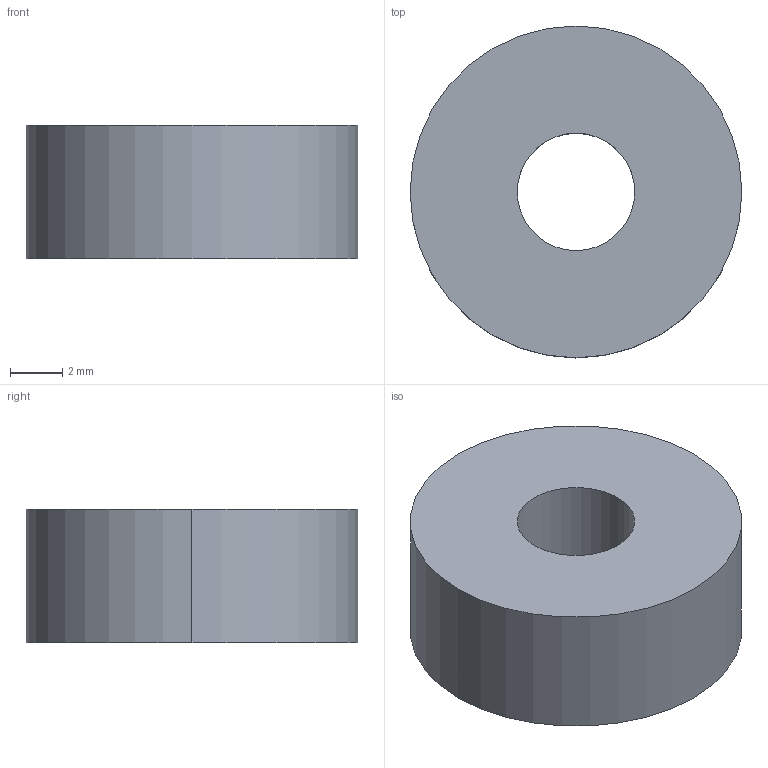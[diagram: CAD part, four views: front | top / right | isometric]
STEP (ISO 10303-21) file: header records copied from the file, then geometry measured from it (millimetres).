
FILE_DESCRIPTION (( 'STEP AP203' ), '1' );
FILE_NAME ('FDPCK-.5PULTRUDED-SPACER.step', '2019-09-11T18:23:53', ( 'ydmin' ), ( '' ), 'SwSTEP 2.0', 'SolidWorks 2017', '' );
FILE_SCHEMA (( 'CONFIG_CONTROL_DESIGN' ));
Length unit declared in the file: inch
Products named in the file (1): FDPCK-.5PULTRUDED-SPACER
Bounding box: 12.7 x 12.7 x 5.11 mm (x, y, z)
Volume: 565.7 mm3; surface area: 497.4 mm2
Topology: 1 solids, 1 shells, 6 faces, 12 edges, 8 vertices
Faces by surface type: cylinder 4, plane 2
Entity records: 247 total; most frequent: DIRECTION 34, CARTESIAN_POINT 27, ORIENTED_EDGE 24, AXIS2_PLACEMENT_3D 15, EDGE_CURVE 12, VERTEX_POINT 8, CIRCLE 8, PERSON_AND_ORGANIZATION 8
